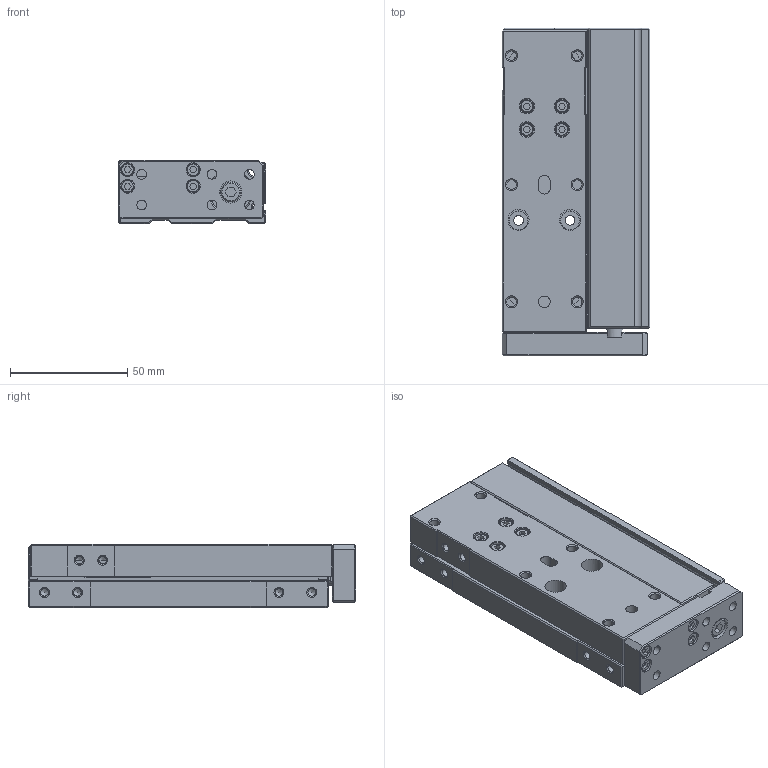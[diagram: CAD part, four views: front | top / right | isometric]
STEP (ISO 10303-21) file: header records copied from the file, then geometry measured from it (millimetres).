
FILE_DESCRIPTION((''),'2;1');
FILE_NAME('I:\3D電子目錄\氣缸\FMR(L)\FMR(L)\FMR16x75.stp','2007-10-15T16:01:33',('Administrator'),(''),'Autodesk Inventor 11','Autodesk Inventor 11','');
FILE_SCHEMA(('AUTOMOTIVE_DESIGN { 1 0 10303 214 1 1 1 1 }'));
Length unit declared in the file: millimetre
Products named in the file (1): FMR16x75
Bounding box: 63 x 139.8 x 27 mm (x, y, z)
Volume: 173651.7 mm3; surface area: 65358.5 mm2
Topology: 13 solids, 13 shells, 558 faces, 1314 edges, 831 vertices
Faces by surface type: plane 343, bspline 110, cylinder 66, cone 39
Full cylindrical faces by diameter (mm): 0.8 x2, 2 x2, 5 x4, 5.5 x8, 6 x1, 6.5 x2, 8 x3, 8.5 x1, 9 x2, 9.95 x1, 11 x1, 13 x1, 13.5 x2, 16 x3, 18 x4, 19.2 x2
Entity records: 16053 total; most frequent: CARTESIAN_POINT 4234, DIRECTION 2319, ORIENTED_EDGE 2216, EDGE_CURVE 1108, EDGE_LOOP 835, AXIS2_PLACEMENT_3D 783, VERTEX_POINT 775, VECTOR 753
